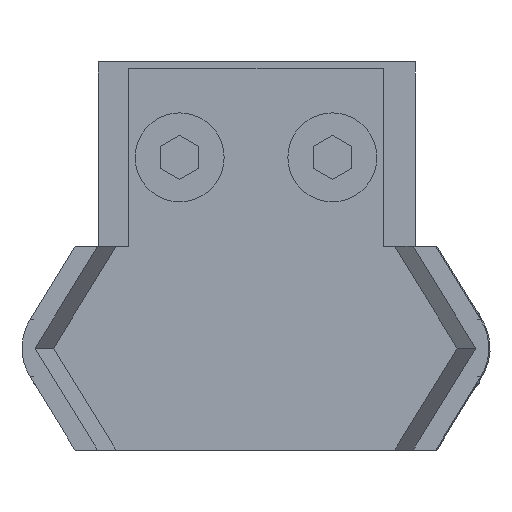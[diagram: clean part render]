
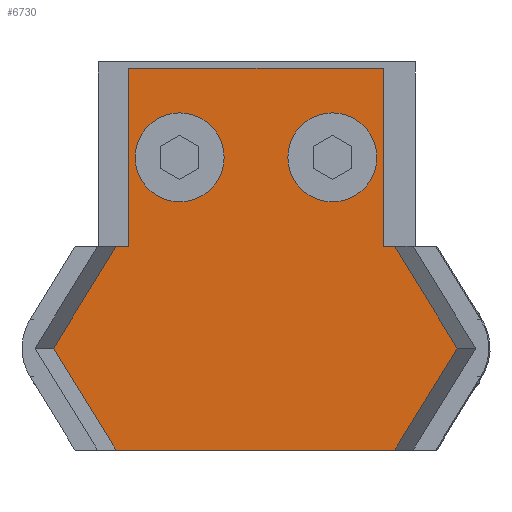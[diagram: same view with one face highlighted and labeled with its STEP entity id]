
A CAD part, left-side view. The second image highlights one B-rep face of the part: STEP entity #6730.
In plain terms, the highlighted planar face has unit normal (-1, 0, 0).
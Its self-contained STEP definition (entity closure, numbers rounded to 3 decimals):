
#75 = AXIS2_PLACEMENT_3D ( 'NONE', #5939, #1504, #4739 ) ;
#86 = CARTESIAN_POINT ( 'NONE',  ( 4., 14., 10. ) ) ;
#128 = ORIENTED_EDGE ( 'NONE', *, *, #6278, .T. ) ;
#212 = CARTESIAN_POINT ( 'NONE',  ( 4., -8., -15.914 ) ) ;
#267 = VERTEX_POINT ( 'NONE', #3268 ) ;
#330 = DIRECTION ( 'NONE',  ( 0., 0., -1. ) ) ;
#373 = ORIENTED_EDGE ( 'NONE', *, *, #2510, .F. ) ;
#444 = CARTESIAN_POINT ( 'NONE',  ( 4., 7., 6. ) ) ;
#523 = EDGE_LOOP ( 'NONE', ( #2785, #373 ) ) ;
#586 = EDGE_CURVE ( 'NONE', #267, #5195, #5415, .T. ) ;
#699 = ORIENTED_EDGE ( 'NONE', *, *, #5572, .F. ) ;
#735 = ORIENTED_EDGE ( 'NONE', *, *, #4757, .F. ) ;
#771 = PLANE ( 'NONE',  #4715 ) ;
#853 = CIRCLE ( 'NONE', #4616, 3.5 ) ;
#933 = VECTOR ( 'NONE', #4073, 1000. ) ;
#1009 = ORIENTED_EDGE ( 'NONE', *, *, #6909, .F. ) ;
#1058 = FACE_OUTER_BOUND ( 'NONE', #1209, .T. ) ;
#1175 = EDGE_CURVE ( 'NONE', #1780, #5195, #4901, .T. ) ;
#1209 = EDGE_LOOP ( 'NONE', ( #699, #128, #2256, #2295, #6452, #2048, #6344, #6287, #5121, #735 ) ) ;
#1216 = CARTESIAN_POINT ( 'NONE',  ( 4., 0., -10.999 ) ) ;
#1296 = LINE ( 'NONE', #2135, #4648 ) ;
#1325 = VERTEX_POINT ( 'NONE', #3985 ) ;
#1327 = CARTESIAN_POINT ( 'NONE',  ( 4., 7., 6. ) ) ;
#1497 = DIRECTION ( 'NONE',  ( -1., 0., 0. ) ) ;
#1504 = DIRECTION ( 'NONE',  ( -1., 0., 0. ) ) ;
#1529 = DIRECTION ( 'NONE',  ( 0., 0., -1. ) ) ;
#1564 = EDGE_CURVE ( 'NONE', #2386, #3121, #1296, .T. ) ;
#1567 = CARTESIAN_POINT ( 'NONE',  ( 4., 7., -9.5 ) ) ;
#1588 = CARTESIAN_POINT ( 'NONE',  ( 4., -8., 15.814 ) ) ;
#1740 = AXIS2_PLACEMENT_3D ( 'NONE', #1327, #3458, #6694 ) ;
#1780 = VERTEX_POINT ( 'NONE', #1216 ) ;
#1868 = DIRECTION ( 'NONE',  ( 1., 0., 0. ) ) ;
#1879 = CIRCLE ( 'NONE', #1740, 3.5 ) ;
#1893 = VECTOR ( 'NONE', #4982, 1000. ) ;
#1914 = VERTEX_POINT ( 'NONE', #4016 ) ;
#1944 = LINE ( 'NONE', #5699, #933 ) ;
#2048 = ORIENTED_EDGE ( 'NONE', *, *, #1175, .F. ) ;
#2057 = CARTESIAN_POINT ( 'NONE',  ( 4., -16., 10.899 ) ) ;
#2063 = LINE ( 'NONE', #3942, #6160 ) ;
#2107 = DIRECTION ( 'NONE',  ( 0., 0., 1. ) ) ;
#2135 = CARTESIAN_POINT ( 'NONE',  ( 4., -16., 20. ) ) ;
#2256 = ORIENTED_EDGE ( 'NONE', *, *, #3576, .T. ) ;
#2295 = ORIENTED_EDGE ( 'NONE', *, *, #6552, .T. ) ;
#2310 = CARTESIAN_POINT ( 'NONE',  ( 4., 0., 10.899 ) ) ;
#2356 = DIRECTION ( 'NONE',  ( 0., -0.852, 0.523 ) ) ;
#2386 = VERTEX_POINT ( 'NONE', #3288 ) ;
#2510 = EDGE_CURVE ( 'NONE', #4716, #1914, #1879, .T. ) ;
#2785 = ORIENTED_EDGE ( 'NONE', *, *, #5784, .F. ) ;
#3121 = VERTEX_POINT ( 'NONE', #2057 ) ;
#3130 = DIRECTION ( 'NONE',  ( -1., 0., 0. ) ) ;
#3136 = CARTESIAN_POINT ( 'NONE',  ( 4., 7., -2.5 ) ) ;
#3140 = VERTEX_POINT ( 'NONE', #1588 ) ;
#3268 = CARTESIAN_POINT ( 'NONE',  ( 4., 14., -10. ) ) ;
#3269 = VERTEX_POINT ( 'NONE', #86 ) ;
#3288 = CARTESIAN_POINT ( 'NONE',  ( 4., -16., -10.999 ) ) ;
#3411 = VECTOR ( 'NONE', #6874, 1000. ) ;
#3428 = VECTOR ( 'NONE', #5198, 1000. ) ;
#3458 = DIRECTION ( 'NONE',  ( -1., 0., 0. ) ) ;
#3570 = CARTESIAN_POINT ( 'NONE',  ( 4., 0., -10. ) ) ;
#3576 = EDGE_CURVE ( 'NONE', #6629, #3269, #6539, .T. ) ;
#3594 = EDGE_CURVE ( 'NONE', #5548, #1780, #1944, .T. ) ;
#3603 = DIRECTION ( 'NONE',  ( 0., 0., -1. ) ) ;
#3876 = VERTEX_POINT ( 'NONE', #1567 ) ;
#3898 = DIRECTION ( 'NONE',  ( 0., 0., -1. ) ) ;
#3923 = VECTOR ( 'NONE', #2356, 1000. ) ;
#3942 = CARTESIAN_POINT ( 'NONE',  ( 4., 14., -10. ) ) ;
#3985 = CARTESIAN_POINT ( 'NONE',  ( 4., 0., 10.899 ) ) ;
#4000 = VECTOR ( 'NONE', #4108, 1000. ) ;
#4016 = CARTESIAN_POINT ( 'NONE',  ( 4., 7., 2.5 ) ) ;
#4073 = DIRECTION ( 'NONE',  ( 0., 0.852, 0.523 ) ) ;
#4087 = LINE ( 'NONE', #6849, #3411 ) ;
#4108 = DIRECTION ( 'NONE',  ( 0., -1., 0. ) ) ;
#4209 = EDGE_CURVE ( 'NONE', #5050, #3876, #853, .T. ) ;
#4356 = CARTESIAN_POINT ( 'NONE',  ( 4., 0., 0. ) ) ;
#4360 = CARTESIAN_POINT ( 'NONE',  ( 4., 0., -10. ) ) ;
#4410 = FACE_BOUND ( 'NONE', #5508, .T. ) ;
#4616 = AXIS2_PLACEMENT_3D ( 'NONE', #5804, #3130, #1529 ) ;
#4648 = VECTOR ( 'NONE', #2107, 1000. ) ;
#4655 = CARTESIAN_POINT ( 'NONE',  ( 4., 7., 9.5 ) ) ;
#4669 = AXIS2_PLACEMENT_3D ( 'NONE', #444, #1497, #3603 ) ;
#4676 = DIRECTION ( 'NONE',  ( 0., 1., 0. ) ) ;
#4715 = AXIS2_PLACEMENT_3D ( 'NONE', #6710, #1868, #330 ) ;
#4716 = VERTEX_POINT ( 'NONE', #4655 ) ;
#4739 = DIRECTION ( 'NONE',  ( 0., 0., -1. ) ) ;
#4757 = EDGE_CURVE ( 'NONE', #3140, #3121, #4855, .T. ) ;
#4760 = CARTESIAN_POINT ( 'NONE',  ( 4., -8., 15.814 ) ) ;
#4793 = VECTOR ( 'NONE', #4676, 1000. ) ;
#4855 = LINE ( 'NONE', #4760, #3428 ) ;
#4901 = LINE ( 'NONE', #4356, #1893 ) ;
#4982 = DIRECTION ( 'NONE',  ( 0., 0., 1. ) ) ;
#5005 = ORIENTED_EDGE ( 'NONE', *, *, #4209, .F. ) ;
#5050 = VERTEX_POINT ( 'NONE', #3136 ) ;
#5121 = ORIENTED_EDGE ( 'NONE', *, *, #1564, .T. ) ;
#5195 = VERTEX_POINT ( 'NONE', #4360 ) ;
#5198 = DIRECTION ( 'NONE',  ( 0., -0.852, -0.523 ) ) ;
#5327 = FACE_BOUND ( 'NONE', #523, .T. ) ;
#5347 = VECTOR ( 'NONE', #6607, 1000. ) ;
#5415 = LINE ( 'NONE', #3570, #4000 ) ;
#5506 = LINE ( 'NONE', #2310, #3923 ) ;
#5508 = EDGE_LOOP ( 'NONE', ( #1009, #5005 ) ) ;
#5548 = VERTEX_POINT ( 'NONE', #212 ) ;
#5572 = EDGE_CURVE ( 'NONE', #1325, #3140, #5506, .T. ) ;
#5653 = CIRCLE ( 'NONE', #75, 3.5 ) ;
#5656 = EDGE_CURVE ( 'NONE', #2386, #5548, #6768, .T. ) ;
#5699 = CARTESIAN_POINT ( 'NONE',  ( 4., -8., -15.914 ) ) ;
#5784 = EDGE_CURVE ( 'NONE', #1914, #4716, #6695, .T. ) ;
#5804 = CARTESIAN_POINT ( 'NONE',  ( 4., 7., -6. ) ) ;
#5939 = CARTESIAN_POINT ( 'NONE',  ( 4., 7., -6. ) ) ;
#6063 = CARTESIAN_POINT ( 'NONE',  ( 4., -16., -10.999 ) ) ;
#6160 = VECTOR ( 'NONE', #3898, 1000. ) ;
#6182 = CARTESIAN_POINT ( 'NONE',  ( 4., 0., 10. ) ) ;
#6253 = CARTESIAN_POINT ( 'NONE',  ( 4., 14., 10. ) ) ;
#6278 = EDGE_CURVE ( 'NONE', #1325, #6629, #4087, .T. ) ;
#6287 = ORIENTED_EDGE ( 'NONE', *, *, #5656, .F. ) ;
#6344 = ORIENTED_EDGE ( 'NONE', *, *, #3594, .F. ) ;
#6452 = ORIENTED_EDGE ( 'NONE', *, *, #586, .T. ) ;
#6539 = LINE ( 'NONE', #6253, #4793 ) ;
#6552 = EDGE_CURVE ( 'NONE', #3269, #267, #2063, .T. ) ;
#6607 = DIRECTION ( 'NONE',  ( 0., 0.852, -0.523 ) ) ;
#6629 = VERTEX_POINT ( 'NONE', #6182 ) ;
#6694 = DIRECTION ( 'NONE',  ( 0., 0., -1. ) ) ;
#6695 = CIRCLE ( 'NONE', #4669, 3.5 ) ;
#6710 = CARTESIAN_POINT ( 'NONE',  ( 4., 0., 0. ) ) ;
#6730 = ADVANCED_FACE ( 'NONE', ( #1058, #4410, #5327 ), #771, .F. ) ;
#6768 = LINE ( 'NONE', #6063, #5347 ) ;
#6849 = CARTESIAN_POINT ( 'NONE',  ( 4., 0., 10. ) ) ;
#6874 = DIRECTION ( 'NONE',  ( 0., 0., -1. ) ) ;
#6909 = EDGE_CURVE ( 'NONE', #3876, #5050, #5653, .T. ) ;
